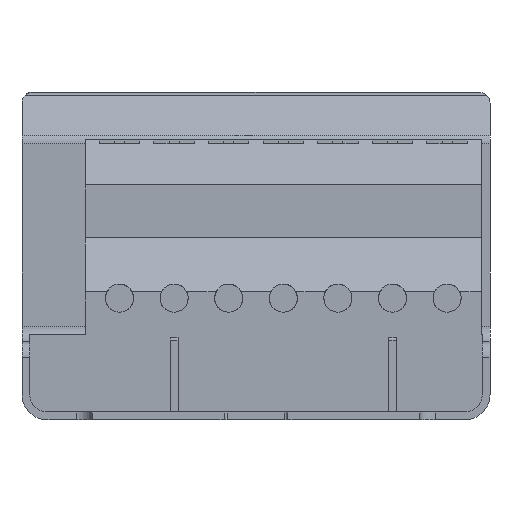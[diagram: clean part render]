
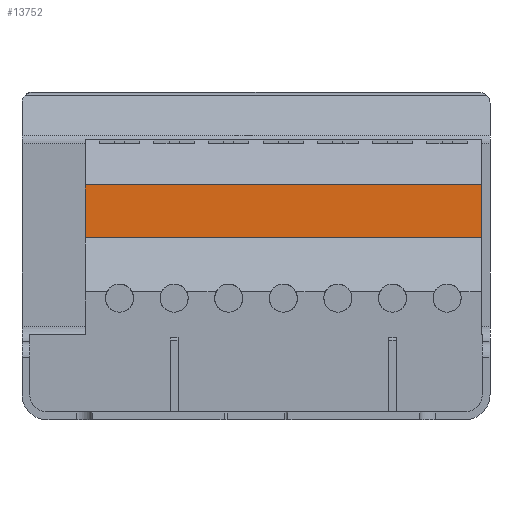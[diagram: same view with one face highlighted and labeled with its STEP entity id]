
A CAD part, front view. The second image highlights one B-rep face of the part: STEP entity #13752.
In plain terms, the highlighted planar face has unit normal (0, -1, 0).
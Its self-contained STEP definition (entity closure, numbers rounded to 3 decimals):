
#5264=DIRECTION('',(0.,0.,-1.));
#5265=VECTOR('',#5264,3.395);
#5266=CARTESIAN_POINT('',(-10.95,-163.,15.055));
#5267=LINE('',#5266,#5265);
#5621=DIRECTION('',(1.,0.,0.));
#5622=VECTOR('',#5621,25.4);
#5623=CARTESIAN_POINT('',(-10.95,-163.,11.66));
#5624=LINE('',#5623,#5622);
#5745=DIRECTION('',(1.,0.,0.));
#5746=VECTOR('',#5745,25.4);
#5747=CARTESIAN_POINT('',(-10.95,-163.,15.055));
#5748=LINE('',#5747,#5746);
#5773=DIRECTION('',(0.,0.,-1.));
#5774=VECTOR('',#5773,3.395);
#5775=CARTESIAN_POINT('',(14.45,-163.,15.055));
#5776=LINE('',#5775,#5774);
#8281=CARTESIAN_POINT('',(-10.95,-163.,15.055));
#8282=VERTEX_POINT('',#8281);
#8283=CARTESIAN_POINT('',(-10.95,-163.,11.66));
#8284=VERTEX_POINT('',#8283);
#8293=CARTESIAN_POINT('',(14.45,-163.,15.055));
#8294=VERTEX_POINT('',#8293);
#8295=CARTESIAN_POINT('',(14.45,-163.,11.66));
#8296=VERTEX_POINT('',#8295);
#13739=CARTESIAN_POINT('',(-10.95,-163.,15.055));
#13740=DIRECTION('',(0.,-1.,0.));
#13741=DIRECTION('',(0.,0.,-1.));
#13742=AXIS2_PLACEMENT_3D('',#13739,#13740,#13741);
#13743=PLANE('',#13742);
#13744=ORIENTED_EDGE('',*,*,#13488,.F.);
#13746=ORIENTED_EDGE('',*,*,#13745,.T.);
#13748=ORIENTED_EDGE('',*,*,#13747,.T.);
#13749=ORIENTED_EDGE('',*,*,#13687,.F.);
#13750=EDGE_LOOP('',(#13744,#13746,#13748,#13749));
#13751=FACE_OUTER_BOUND('',#13750,.F.);
#13488=EDGE_CURVE('',#8282,#8284,#5267,.T.);
#13687=EDGE_CURVE('',#8284,#8296,#5624,.T.);
#13745=EDGE_CURVE('',#8282,#8294,#5748,.T.);
#13747=EDGE_CURVE('',#8294,#8296,#5776,.T.);
#13752=ADVANCED_FACE('',(#13751),#13743,.T.);
